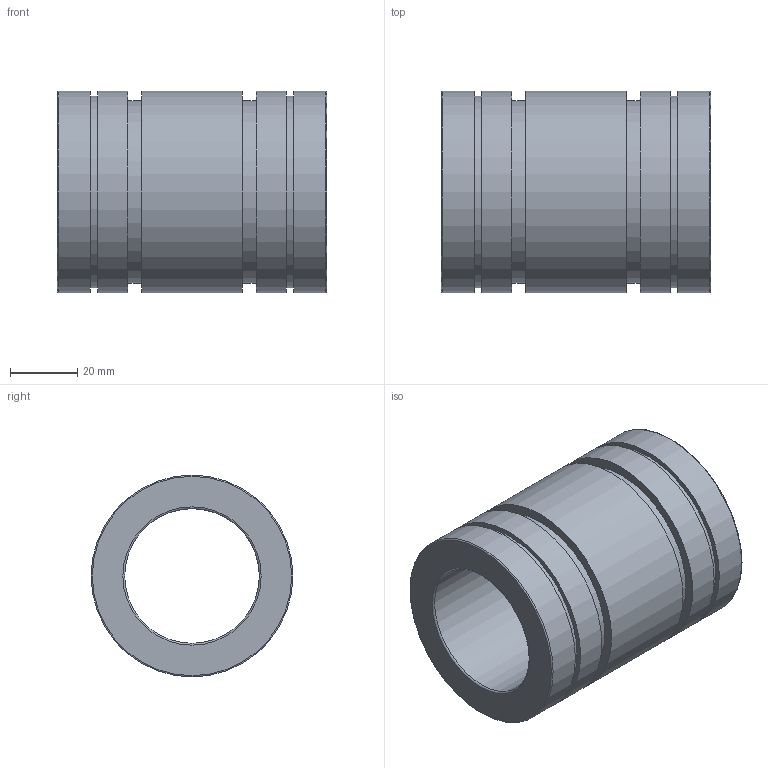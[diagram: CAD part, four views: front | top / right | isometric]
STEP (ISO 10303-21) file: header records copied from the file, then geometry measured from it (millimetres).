
FILE_DESCRIPTION(('STEP AP203'),'1');
FILE_NAME('//192.168.1.1/share/s-4 技術開発/s-4-4_CAD/s-4-4-3_見直し済み/PBC LINEAR修正済み/3D途中/FJ/FJ40.step','2022-03-24T06:52:13',(' '),(' '),'Spatial InterOp 3D',' ',' ');
FILE_SCHEMA(('CONFIG_CONTROL_DESIGN'));
Length unit declared in the file: millimetre
Products named in the file (1): 1
Bounding box: 80 x 60 x 60 mm (x, y, z)
Volume: 120158.3 mm3; surface area: 31136.9 mm2
Topology: 1 solids, 1 shells, 24 faces, 38 edges, 24 vertices
Faces by surface type: cylinder 10, plane 10, torus 4
Full cylindrical faces by diameter (mm): 40 x1, 54.225 x2, 57 x2, 60 x5
Entity records: 532 total; most frequent: DIRECTION 98, CARTESIAN_POINT 73, AXIS2_PLACEMENT_3D 49, EDGE_LOOP 48, ORIENTED_EDGE 48, FACE_OUTER_BOUND 38, ADVANCED_FACE 24, EDGE_CURVE 24
